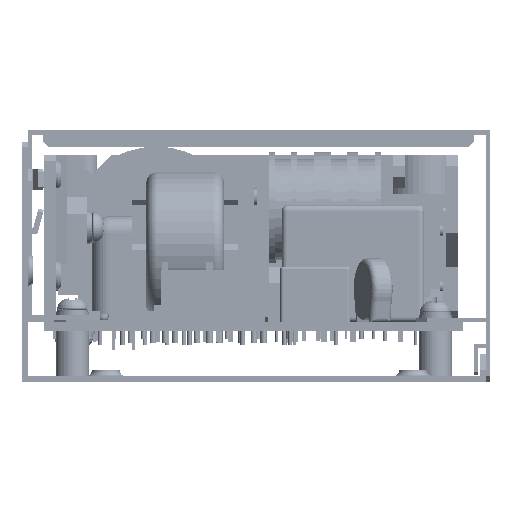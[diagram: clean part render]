
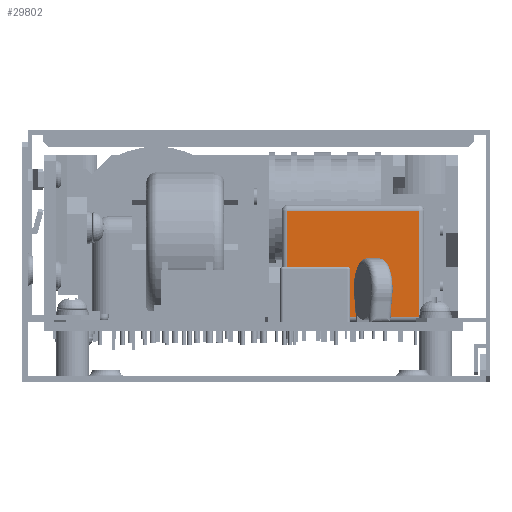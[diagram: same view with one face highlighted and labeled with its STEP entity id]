
A CAD part, left-side view. The second image highlights one B-rep face of the part: STEP entity #29802.
In plain terms, the highlighted planar face has unit normal (-1, 0, 0) as drawn and (0, 0, 1) by its records, which use the part's own axes.
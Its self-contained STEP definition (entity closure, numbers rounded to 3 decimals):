
#1525 = VERTEX_POINT ( 'NONE', #55730 ) ;
#3593 = CARTESIAN_POINT ( 'NONE',  ( 24.5, 1., 10. ) ) ;
#6342 = DIRECTION ( 'NONE',  ( 0., 0., -1. ) ) ;
#6995 = ORIENTED_EDGE ( 'NONE', *, *, #31869, .T. ) ;
#7237 = CARTESIAN_POINT ( 'NONE',  ( 1., 0., 10. ) ) ;
#9621 = LINE ( 'NONE', #9885, #105332 ) ;
#9885 = CARTESIAN_POINT ( 'NONE',  ( 0., 20., 10. ) ) ;
#16568 = DIRECTION ( 'NONE',  ( 0., -1., 0. ) ) ;
#18650 = DIRECTION ( 'NONE',  ( 1., 0., 0. ) ) ;
#21081 = EDGE_CURVE ( 'NONE', #33123, #32469, #49953, .T. ) ;
#22357 = CARTESIAN_POINT ( 'NONE',  ( 24.5, 0., 10. ) ) ;
#24222 = VECTOR ( 'NONE', #18650, 1000. ) ;
#24513 = EDGE_LOOP ( 'NONE', ( #47662, #52789, #6995, #81215 ) ) ;
#29802 = ADVANCED_FACE ( 'NONE', ( #114860 ), #98315, .F. ) ;
#31869 = EDGE_CURVE ( 'NONE', #32469, #86400, #71989, .T. ) ;
#32469 = VERTEX_POINT ( 'NONE', #3593 ) ;
#33123 = VERTEX_POINT ( 'NONE', #90138 ) ;
#43220 = CARTESIAN_POINT ( 'NONE',  ( 24.5, 20., 10. ) ) ;
#45622 = CARTESIAN_POINT ( 'NONE',  ( 0., 1., 10. ) ) ;
#47306 = VECTOR ( 'NONE', #87175, 1000. ) ;
#47662 = ORIENTED_EDGE ( 'NONE', *, *, #82639, .T. ) ;
#49953 = LINE ( 'NONE', #45622, #24222 ) ;
#52789 = ORIENTED_EDGE ( 'NONE', *, *, #21081, .T. ) ;
#55730 = CARTESIAN_POINT ( 'NONE',  ( 1., 20., 10. ) ) ;
#61778 = CARTESIAN_POINT ( 'NONE',  ( 0., 0., 10. ) ) ;
#66051 = AXIS2_PLACEMENT_3D ( 'NONE', #61778, #6342, #71123 ) ;
#66545 = DIRECTION ( 'NONE',  ( -1., 0., 0. ) ) ;
#71123 = DIRECTION ( 'NONE',  ( -1., 0., 0. ) ) ;
#71989 = LINE ( 'NONE', #22357, #47306 ) ;
#76940 = VECTOR ( 'NONE', #16568, 1000. ) ;
#79850 = LINE ( 'NONE', #7237, #76940 ) ;
#81215 = ORIENTED_EDGE ( 'NONE', *, *, #84416, .T. ) ;
#82639 = EDGE_CURVE ( 'NONE', #1525, #33123, #79850, .T. ) ;
#84416 = EDGE_CURVE ( 'NONE', #86400, #1525, #9621, .T. ) ;
#86400 = VERTEX_POINT ( 'NONE', #43220 ) ;
#87175 = DIRECTION ( 'NONE',  ( 0., 1., 0. ) ) ;
#90138 = CARTESIAN_POINT ( 'NONE',  ( 1., 1., 10. ) ) ;
#98315 = PLANE ( 'NONE',  #66051 ) ;
#105332 = VECTOR ( 'NONE', #66545, 1000. ) ;
#114860 = FACE_OUTER_BOUND ( 'NONE', #24513, .T. ) ;
